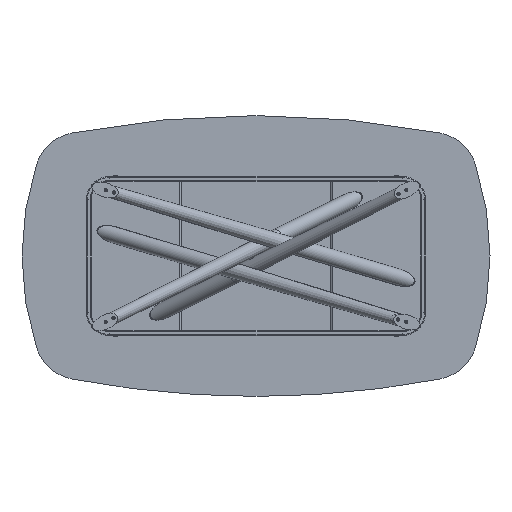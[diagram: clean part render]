
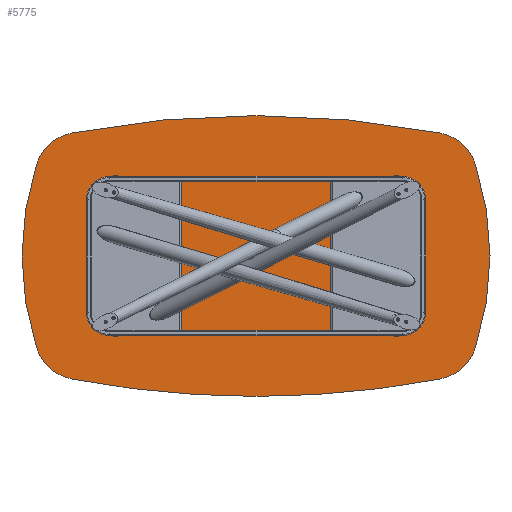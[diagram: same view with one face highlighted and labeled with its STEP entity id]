
A CAD part, front view. The second image highlights one B-rep face of the part: STEP entity #5775.
In plain terms, the highlighted planar face has unit normal (0, -1, 0).
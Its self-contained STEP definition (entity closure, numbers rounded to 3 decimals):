
#157 = ORIENTED_EDGE ( 'NONE', *, *, #870, .F. ) ;
#162 = DIRECTION ( 'NONE',  ( 0., 0., 1. ) ) ;
#404 = EDGE_CURVE ( 'NONE', #9926, #8359, #6134, .T. ) ;
#434 = CARTESIAN_POINT ( 'NONE',  ( -261., 0., 0. ) ) ;
#492 = VERTEX_POINT ( 'NONE', #3250 ) ;
#612 = CARTESIAN_POINT ( 'NONE',  ( -784.906, 0., 526.006 ) ) ;
#870 = EDGE_CURVE ( 'NONE', #9658, #6143, #3284, .T. ) ;
#951 = CIRCLE ( 'NONE', #6719, 1261. ) ;
#1216 = EDGE_CURVE ( 'NONE', #8731, #492, #5977, .T. ) ;
#1317 = DIRECTION ( 'NONE',  ( 0., 0., 1. ) ) ;
#1339 = DIRECTION ( 'NONE',  ( 0., 0., 1. ) ) ;
#1355 = DIRECTION ( 'NONE',  ( 0., -1., 0. ) ) ;
#1413 = AXIS2_PLACEMENT_3D ( 'NONE', #9698, #6622, #5619 ) ;
#1494 = EDGE_LOOP ( 'NONE', ( #9826, #2020, #7557, #4616, #6169, #157, #4223, #5483, #3258 ) ) ;
#1572 = AXIS2_PLACEMENT_3D ( 'NONE', #8185, #2612, #162 ) ;
#1606 = CARTESIAN_POINT ( 'NONE',  ( 0., 0., -3600. ) ) ;
#1815 = AXIS2_PLACEMENT_3D ( 'NONE', #8853, #3822, #3133 ) ;
#2020 = ORIENTED_EDGE ( 'NONE', *, *, #1216, .T. ) ;
#2243 = CIRCLE ( 'NONE', #10367, 4200. ) ;
#2612 = DIRECTION ( 'NONE',  ( 0., -1., 0. ) ) ;
#2632 = CARTESIAN_POINT ( 'NONE',  ( 747.529, 0., 329.529 ) ) ;
#2743 = EDGE_CURVE ( 'NONE', #9658, #2823, #3475, .T. ) ;
#2823 = VERTEX_POINT ( 'NONE', #6287 ) ;
#2842 = CARTESIAN_POINT ( 'NONE',  ( 0., 0., 3600. ) ) ;
#2915 = DIRECTION ( 'NONE',  ( 0., 0., 1. ) ) ;
#3118 = CARTESIAN_POINT ( 'NONE',  ( 0., 0., -600. ) ) ;
#3133 = DIRECTION ( 'NONE',  ( 0., 0., 1. ) ) ;
#3250 = CARTESIAN_POINT ( 'NONE',  ( -937.639, 0., 391.646 ) ) ;
#3258 = ORIENTED_EDGE ( 'NONE', *, *, #9103, .T. ) ;
#3284 = CIRCLE ( 'NONE', #1413, 4200. ) ;
#3475 = CIRCLE ( 'NONE', #6002, 200. ) ;
#3570 = DIRECTION ( 'NONE',  ( 0., 0., 1. ) ) ;
#3682 = DIRECTION ( 'NONE',  ( 0., 1., 0. ) ) ;
#3768 = DIRECTION ( 'NONE',  ( 0., 1., 0. ) ) ;
#3822 = DIRECTION ( 'NONE',  ( 0., 1., 0. ) ) ;
#4052 = DIRECTION ( 'NONE',  ( 0., 0., 1. ) ) ;
#4223 = ORIENTED_EDGE ( 'NONE', *, *, #2743, .T. ) ;
#4556 = CARTESIAN_POINT ( 'NONE',  ( 784.906, 0., -526.006 ) ) ;
#4616 = ORIENTED_EDGE ( 'NONE', *, *, #404, .T. ) ;
#5194 = EDGE_CURVE ( 'NONE', #5676, #2823, #5528, .T. ) ;
#5402 = DIRECTION ( 'NONE',  ( 0., 0., 1. ) ) ;
#5469 = AXIS2_PLACEMENT_3D ( 'NONE', #2632, #6763, #9201 ) ;
#5479 = AXIS2_PLACEMENT_3D ( 'NONE', #6993, #10321, #1317 ) ;
#5483 = ORIENTED_EDGE ( 'NONE', *, *, #5194, .F. ) ;
#5528 = CIRCLE ( 'NONE', #7559, 1261. ) ;
#5536 = CARTESIAN_POINT ( 'NONE',  ( -784.906, 0., -526.006 ) ) ;
#5546 = EDGE_CURVE ( 'NONE', #9926, #492, #951, .T. ) ;
#5619 = DIRECTION ( 'NONE',  ( 0., 0., 1. ) ) ;
#5676 = VERTEX_POINT ( 'NONE', #8643 ) ;
#5775 = ADVANCED_FACE ( 'NONE', ( #7103 ), #10327, .F. ) ;
#5977 = CIRCLE ( 'NONE', #5479, 200. ) ;
#6002 = AXIS2_PLACEMENT_3D ( 'NONE', #10277, #1355, #5402 ) ;
#6113 = CARTESIAN_POINT ( 'NONE',  ( 784.906, 0., 526.006 ) ) ;
#6134 = CIRCLE ( 'NONE', #1572, 200. ) ;
#6143 = VERTEX_POINT ( 'NONE', #3118 ) ;
#6169 = ORIENTED_EDGE ( 'NONE', *, *, #9181, .F. ) ;
#6287 = CARTESIAN_POINT ( 'NONE',  ( 937.639, 0., -391.646 ) ) ;
#6588 = VERTEX_POINT ( 'NONE', #6113 ) ;
#6622 = DIRECTION ( 'NONE',  ( 0., 1., 0. ) ) ;
#6719 = AXIS2_PLACEMENT_3D ( 'NONE', #6787, #3768, #2915 ) ;
#6763 = DIRECTION ( 'NONE',  ( 0., -1., 0. ) ) ;
#6787 = CARTESIAN_POINT ( 'NONE',  ( 261., 0., 0. ) ) ;
#6993 = CARTESIAN_POINT ( 'NONE',  ( -747.529, 0., 329.529 ) ) ;
#7103 = FACE_OUTER_BOUND ( 'NONE', #1494, .T. ) ;
#7557 = ORIENTED_EDGE ( 'NONE', *, *, #5546, .F. ) ;
#7559 = AXIS2_PLACEMENT_3D ( 'NONE', #434, #3682, #3570 ) ;
#7719 = DIRECTION ( 'NONE',  ( 0., 1., 0. ) ) ;
#8185 = CARTESIAN_POINT ( 'NONE',  ( -747.529, 0., -329.529 ) ) ;
#8359 = VERTEX_POINT ( 'NONE', #5536 ) ;
#8586 = EDGE_CURVE ( 'NONE', #8731, #6588, #2243, .T. ) ;
#8643 = CARTESIAN_POINT ( 'NONE',  ( 937.639, 0., 391.646 ) ) ;
#8731 = VERTEX_POINT ( 'NONE', #612 ) ;
#8853 = CARTESIAN_POINT ( 'NONE',  ( -130.5, 0., 1800. ) ) ;
#9103 = EDGE_CURVE ( 'NONE', #5676, #6588, #10202, .T. ) ;
#9181 = EDGE_CURVE ( 'NONE', #6143, #8359, #10034, .T. ) ;
#9201 = DIRECTION ( 'NONE',  ( 0., 0., 1. ) ) ;
#9658 = VERTEX_POINT ( 'NONE', #4556 ) ;
#9687 = CARTESIAN_POINT ( 'NONE',  ( -937.639, 0., -391.646 ) ) ;
#9698 = CARTESIAN_POINT ( 'NONE',  ( 0., 0., 3600. ) ) ;
#9767 = DIRECTION ( 'NONE',  ( 0., 1., 0. ) ) ;
#9826 = ORIENTED_EDGE ( 'NONE', *, *, #8586, .F. ) ;
#9926 = VERTEX_POINT ( 'NONE', #9687 ) ;
#10034 = CIRCLE ( 'NONE', #10374, 4200. ) ;
#10202 = CIRCLE ( 'NONE', #5469, 200. ) ;
#10277 = CARTESIAN_POINT ( 'NONE',  ( 747.529, 0., -329.529 ) ) ;
#10321 = DIRECTION ( 'NONE',  ( 0., -1., 0. ) ) ;
#10327 = PLANE ( 'NONE',  #1815 ) ;
#10367 = AXIS2_PLACEMENT_3D ( 'NONE', #1606, #9767, #4052 ) ;
#10374 = AXIS2_PLACEMENT_3D ( 'NONE', #2842, #7719, #1339 ) ;
